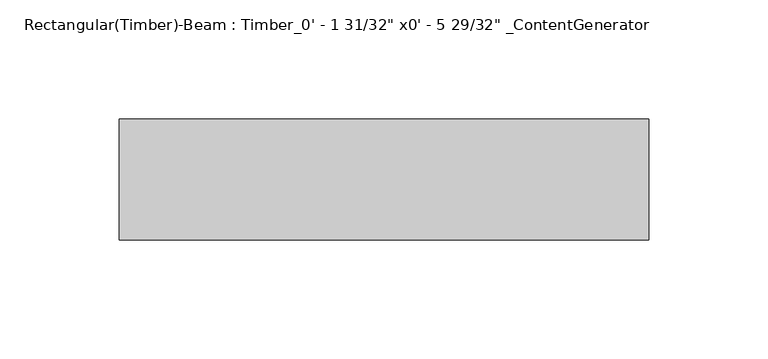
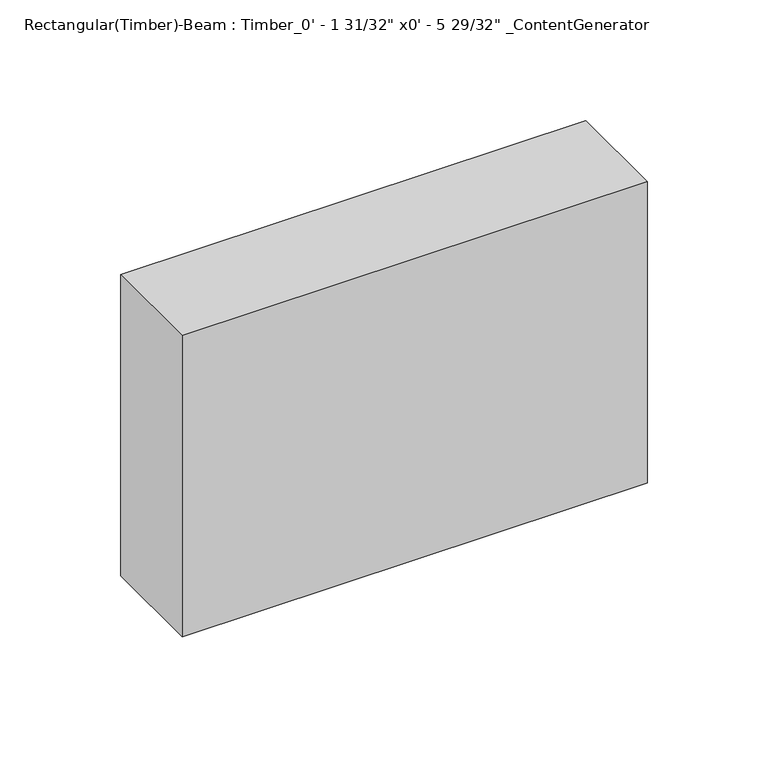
"""IFC4 building model written with IfcOpenShell, lengths in millimetres: beam geometry."""

from ifc_helpers import new_model, si_unit, frame, origin, place, context, project, spatial, polyline, outline, extrude, source, transform, mapped, element, save


def beam_31794994(model_context):
    return source(origin(), model_context, "Body", "SweptSolid", [
        extrude(outline(polyline([(123.8249994, 25.4), (123.8249994, -25.4), (-98.425, -25.4), (-98.425, 25.4), (123.8249994, 25.4)])), frame((0.0, 0.0, -76.2), z_axis=(0.0, 0.0, 1.0), x_axis=(1.0, 0.0, 0.0)), (0.0, 0.0, 1.0), 152.4),
    ])


if __name__ == "__main__":
    model = new_model("IFC4")
    model_context = context("Model", 3, world=origin())
    ifc_project = project(units=[si_unit("LENGTHUNIT", "METRE", prefix="MILLI")], contexts=[model_context])
    site = spatial("IfcSite", under=ifc_project)
    building = spatial("IfcBuilding", under=site)
    placement = place(None, origin())
    beam_shape = beam_31794994(model_context)
    element("IfcBeam", 1, ObjectType="Rectangular(Timber)-Beam : Timber_0' - 1 31/32\" x0' - 5 29/32\" _ContentGenerator", at=placement, inside=building, context=model_context, shape_type="MappedRepresentation", body=[
        mapped(beam_shape, transform((0.0, 0.0, 0.0), x_axis=(1.0, 0.0, 0.0), y_axis=(0.0, 1.0, 0.0), z_axis=(0.0, 0.0, 1.0))),
    ])
    save(model, "model.ifc")
